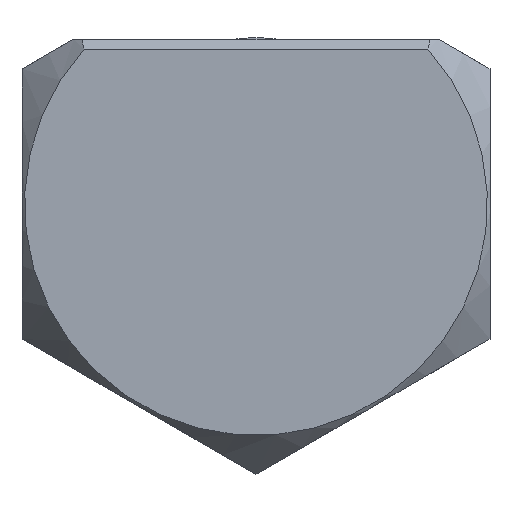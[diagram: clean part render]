
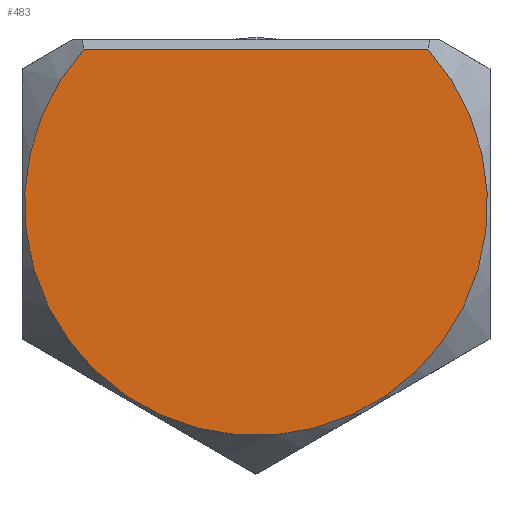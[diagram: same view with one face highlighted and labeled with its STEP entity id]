
A CAD part, front view. The second image highlights one B-rep face of the part: STEP entity #483.
In plain terms, the highlighted planar face has unit normal (0, -1, 0).
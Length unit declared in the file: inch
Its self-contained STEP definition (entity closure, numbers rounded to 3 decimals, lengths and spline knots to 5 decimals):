
#62=PLANE('',#547);
#86=FACE_OUTER_BOUND('',#115,.T.);
#115=EDGE_LOOP('',(#419,#420));
#124=LINE('',#727,#148);
#148=VECTOR('',#582,0.3937);
#173=CIRCLE('',#513,0.463);
#200=VERTEX_POINT('',#724);
#201=VERTEX_POINT('',#726);
#248=EDGE_CURVE('',#200,#201,#124,.T.);
#259=EDGE_CURVE('',#201,#200,#173,.T.);
#419=ORIENTED_EDGE('',*,*,#248,.F.);
#420=ORIENTED_EDGE('',*,*,#259,.F.);
#483=ADVANCED_FACE('',(#86),#62,.T.);
#513=AXIS2_PLACEMENT_3D('',#763,#588,#589);
#547=AXIS2_PLACEMENT_3D('',#869,#676,#677);
#582=DIRECTION('',(1.,0.,0.));
#588=DIRECTION('center_axis',(0.,1.,0.));
#589=DIRECTION('ref_axis',(0.,0.,1.));
#676=DIRECTION('center_axis',(0.,-1.,0.));
#677=DIRECTION('ref_axis',(0.,0.,-1.));
#724=CARTESIAN_POINT('',(-0.3439,0.,0.31));
#726=CARTESIAN_POINT('',(0.3439,0.,0.31));
#727=CARTESIAN_POINT('',(0.18221,0.,0.31));
#763=CARTESIAN_POINT('Origin',(0.,0.,0.));
#869=CARTESIAN_POINT('Origin',(0.,0.,0.));
